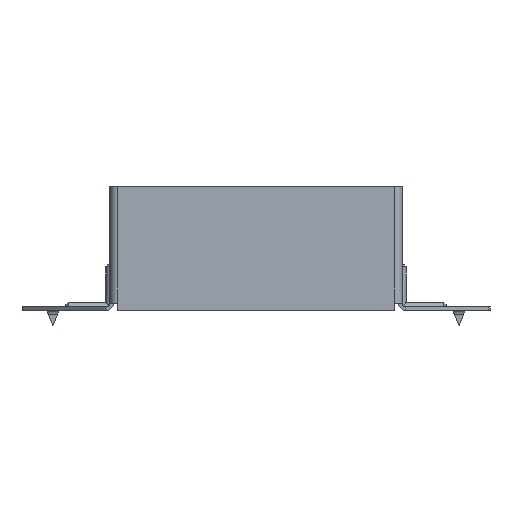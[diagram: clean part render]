
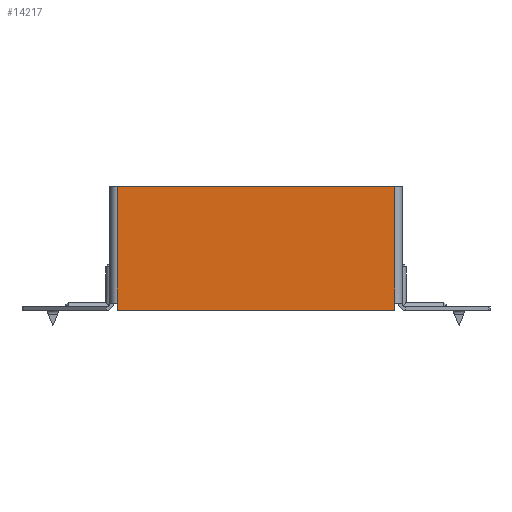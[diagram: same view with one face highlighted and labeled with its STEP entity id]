
A CAD part, front view. The second image highlights one B-rep face of the part: STEP entity #14217.
In plain terms, the highlighted planar face has unit normal (0, -1, 0).
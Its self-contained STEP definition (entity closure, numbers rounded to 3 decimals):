
#376 = CARTESIAN_POINT ( 'NONE',  ( -56., 0., -67. ) ) ;
#411 = CARTESIAN_POINT ( 'NONE',  ( 56., 0., -67. ) ) ;
#522 = CARTESIAN_POINT ( 'NONE',  ( 56., 0., -70. ) ) ;
#931 = ORIENTED_EDGE ( 'NONE', *, *, #12776, .F. ) ;
#2444 = DIRECTION ( 'NONE',  ( 0., 0., -1. ) ) ;
#2643 = EDGE_CURVE ( 'NONE', #5451, #7006, #17333, .T. ) ;
#2867 = FACE_OUTER_BOUND ( 'NONE', #5114, .T. ) ;
#3062 = ORIENTED_EDGE ( 'NONE', *, *, #15810, .T. ) ;
#3629 = ORIENTED_EDGE ( 'NONE', *, *, #2643, .T. ) ;
#4661 = DIRECTION ( 'NONE',  ( 0., 0., 1. ) ) ;
#4709 = LINE ( 'NONE', #18089, #6726 ) ;
#5114 = EDGE_LOOP ( 'NONE', ( #3629, #8467, #12455, #931, #16757, #3062 ) ) ;
#5155 = EDGE_CURVE ( 'NONE', #7006, #8649, #8461, .T. ) ;
#5451 = VERTEX_POINT ( 'NONE', #17486 ) ;
#5484 = VECTOR ( 'NONE', #4661, 1000. ) ;
#6576 = DIRECTION ( 'NONE',  ( -1., 0., 0. ) ) ;
#6726 = VECTOR ( 'NONE', #2444, 1000. ) ;
#7006 = VERTEX_POINT ( 'NONE', #17221 ) ;
#8007 = VECTOR ( 'NONE', #16411, 1000. ) ;
#8048 = DIRECTION ( 'NONE',  ( -1., 0., 0. ) ) ;
#8461 = LINE ( 'NONE', #13790, #10263 ) ;
#8467 = ORIENTED_EDGE ( 'NONE', *, *, #5155, .T. ) ;
#8479 = LINE ( 'NONE', #10573, #8007 ) ;
#8649 = VERTEX_POINT ( 'NONE', #376 ) ;
#9329 = LINE ( 'NONE', #13500, #5484 ) ;
#9564 = EDGE_CURVE ( 'NONE', #10635, #14999, #9329, .T. ) ;
#10263 = VECTOR ( 'NONE', #15334, 1000. ) ;
#10573 = CARTESIAN_POINT ( 'NONE',  ( 56., 0., -70. ) ) ;
#10635 = VERTEX_POINT ( 'NONE', #522 ) ;
#11409 = EDGE_CURVE ( 'NONE', #8649, #11884, #4709, .T. ) ;
#11884 = VERTEX_POINT ( 'NONE', #15054 ) ;
#12276 = DIRECTION ( 'NONE',  ( 0., 1., 0. ) ) ;
#12455 = ORIENTED_EDGE ( 'NONE', *, *, #11409, .T. ) ;
#12776 = EDGE_CURVE ( 'NONE', #10635, #11884, #17669, .T. ) ;
#13461 = CARTESIAN_POINT ( 'NONE',  ( 0., 0., 0. ) ) ;
#13500 = CARTESIAN_POINT ( 'NONE',  ( 56., 0., -70. ) ) ;
#13576 = PLANE ( 'NONE',  #16316 ) ;
#13790 = CARTESIAN_POINT ( 'NONE',  ( -56., 0., 0. ) ) ;
#14217 = ADVANCED_FACE ( 'NONE', ( #2867 ), #13576, .F. ) ;
#14363 = VECTOR ( 'NONE', #8048, 1000. ) ;
#14999 = VERTEX_POINT ( 'NONE', #411 ) ;
#15054 = CARTESIAN_POINT ( 'NONE',  ( -56., 0., -70. ) ) ;
#15314 = CARTESIAN_POINT ( 'NONE',  ( 0., 0., -20. ) ) ;
#15316 = CARTESIAN_POINT ( 'NONE',  ( -57.5, 0., -70. ) ) ;
#15334 = DIRECTION ( 'NONE',  ( 0., 0., -1. ) ) ;
#15810 = EDGE_CURVE ( 'NONE', #14999, #5451, #8479, .T. ) ;
#16316 = AXIS2_PLACEMENT_3D ( 'NONE', #13461, #12276, #17779 ) ;
#16411 = DIRECTION ( 'NONE',  ( 0., 0., 1. ) ) ;
#16757 = ORIENTED_EDGE ( 'NONE', *, *, #9564, .T. ) ;
#17221 = CARTESIAN_POINT ( 'NONE',  ( -56., 0., -20. ) ) ;
#17333 = LINE ( 'NONE', #15314, #18452 ) ;
#17486 = CARTESIAN_POINT ( 'NONE',  ( 56., 0., -20. ) ) ;
#17669 = LINE ( 'NONE', #15316, #14363 ) ;
#17779 = DIRECTION ( 'NONE',  ( 0., 0., 1. ) ) ;
#18089 = CARTESIAN_POINT ( 'NONE',  ( -56., 0., 0. ) ) ;
#18452 = VECTOR ( 'NONE', #6576, 1000. ) ;
